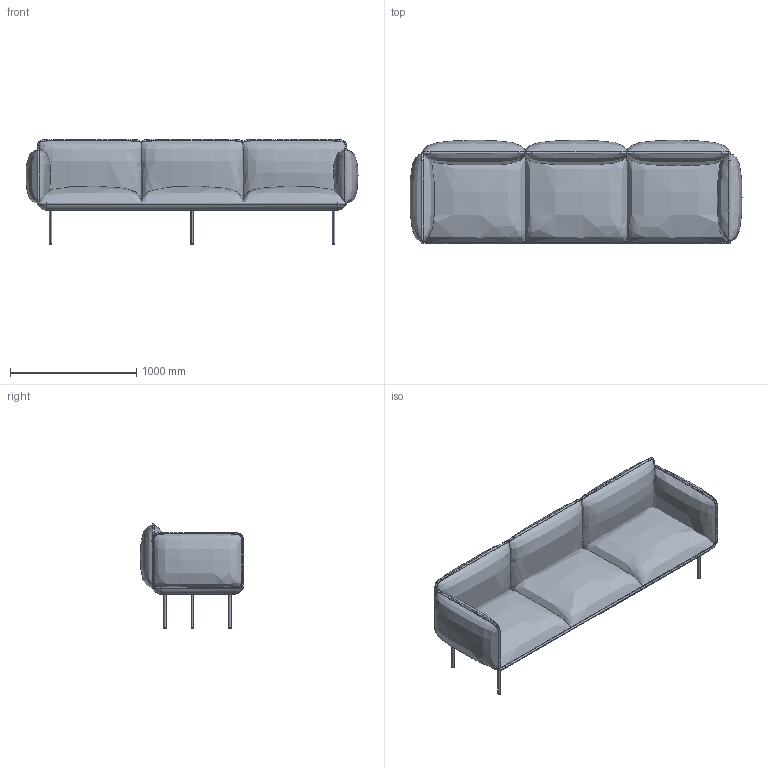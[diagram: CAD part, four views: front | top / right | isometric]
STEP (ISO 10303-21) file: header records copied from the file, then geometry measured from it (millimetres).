
FILE_DESCRIPTION(/* description */ (''),/* implementation_level */ '2;1');
FILE_NAME(/* name */ 'Nakki_3 seater',/* time_stamp */ '2020-04-03T17:24:51+02:00',/* author */ (''),/* organization */ (''),/* preprocessor_version */ 'ST-DEVELOPER v15',/* originating_system */ '',/* authorisation */ '');
FILE_SCHEMA (('AUTOMOTIVE_DESIGN'));
Length unit declared in the file: millimetre
Products named in the file (1): Document
Bounding box: 2630 x 818.18 x 827.31 mm (x, y, z)
Volume: 530795141.9 mm3; surface area: 9285982.9 mm2
Topology: 22 solids, 22 shells, 138 faces, 262 edges, 166 vertices
Faces by surface type: bspline 138
Entity records: 26556 total; most frequent: CARTESIAN_POINT 23097, B_SPLINE_CURVE_WITH_KNOTS 544, ORIENTED_EDGE 524, PCURVE 524, DEFINITIONAL_REPRESENTATION 524, SURFACE_CURVE 262, EDGE_CURVE 262, VERTEX_POINT 166
